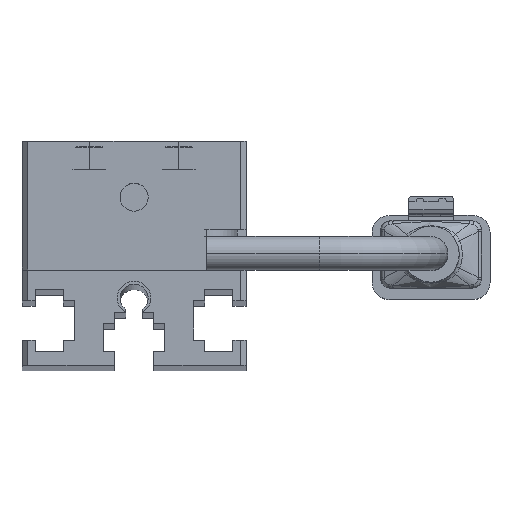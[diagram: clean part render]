
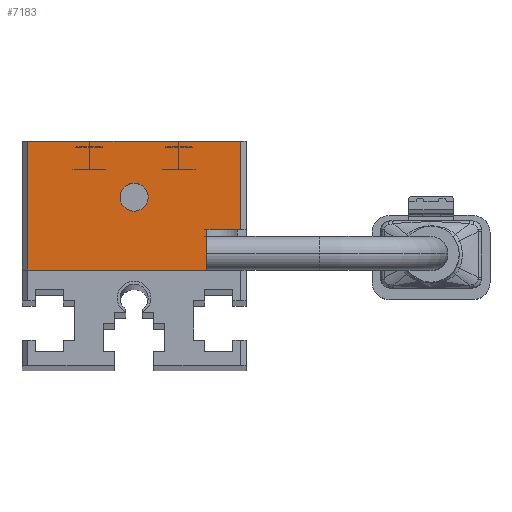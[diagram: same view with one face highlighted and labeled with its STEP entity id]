
A CAD part, top view. The second image highlights one B-rep face of the part: STEP entity #7183.
In plain terms, the highlighted planar face has unit normal (0, 0, 1) as drawn and (0, 0, -1) by its records, which use the part's own axes.
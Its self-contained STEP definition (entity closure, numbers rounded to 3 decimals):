
#145 = CARTESIAN_POINT ( 'NONE',  ( -10., 11.5, 0. ) ) ;
#191 = EDGE_CURVE ( 'NONE', #7475, #6635, #8576, .T. ) ;
#224 = LINE ( 'NONE', #13162, #6159 ) ;
#571 = DIRECTION ( 'NONE',  ( -1., 0., 0. ) ) ;
#580 = ORIENTED_EDGE ( 'NONE', *, *, #12762, .T. ) ;
#758 = ORIENTED_EDGE ( 'NONE', *, *, #4007, .F. ) ;
#853 = CARTESIAN_POINT ( 'NONE',  ( -1.25, 6.5, 0. ) ) ;
#907 = VECTOR ( 'NONE', #12783, 1000. ) ;
#1071 = CARTESIAN_POINT ( 'NONE',  ( 9.5, 11.5, 0. ) ) ;
#1163 = CARTESIAN_POINT ( 'NONE',  ( -9.5, 3.6, 0. ) ) ;
#1245 = VERTEX_POINT ( 'NONE', #11125 ) ;
#1472 = DIRECTION ( 'NONE',  ( 0., 1., 0. ) ) ;
#1576 = VECTOR ( 'NONE', #1472, 1000. ) ;
#1642 = DIRECTION ( 'NONE',  ( 0., 0., -1. ) ) ;
#1709 = FACE_BOUND ( 'NONE', #2991, .T. ) ;
#2228 = DIRECTION ( 'NONE',  ( 1., 0., 0. ) ) ;
#2321 = EDGE_CURVE ( 'NONE', #6824, #6278, #4272, .T. ) ;
#2353 = CARTESIAN_POINT ( 'NONE',  ( -9.5, 3.6, 0. ) ) ;
#2420 = EDGE_CURVE ( 'NONE', #8124, #1245, #9877, .T. ) ;
#2787 = DIRECTION ( 'NONE',  ( 0., 0., -1. ) ) ;
#2991 = EDGE_LOOP ( 'NONE', ( #10894, #6882 ) ) ;
#2992 = CIRCLE ( 'NONE', #11107, 1.25 ) ;
#3545 = DIRECTION ( 'NONE',  ( -1., 0., 0. ) ) ;
#3663 = EDGE_CURVE ( 'NONE', #1245, #6635, #224, .T. ) ;
#4007 = EDGE_CURVE ( 'NONE', #7475, #10305, #8254, .T. ) ;
#4272 = CIRCLE ( 'NONE', #9616, 1.25 ) ;
#4572 = LINE ( 'NONE', #5587, #1576 ) ;
#4774 = AXIS2_PLACEMENT_3D ( 'NONE', #5755, #1642, #3545 ) ;
#4800 = CARTESIAN_POINT ( 'NONE',  ( -6.5, 3., 0. ) ) ;
#4817 = PLANE ( 'NONE',  #4774 ) ;
#4940 = CARTESIAN_POINT ( 'NONE',  ( 0., 6.5, 0. ) ) ;
#5063 = CARTESIAN_POINT ( 'NONE',  ( 1.25, 6.5, 0. ) ) ;
#5587 = CARTESIAN_POINT ( 'NONE',  ( -9.5, 11.5, 0. ) ) ;
#5755 = CARTESIAN_POINT ( 'NONE',  ( -10., 11.5, 0. ) ) ;
#6130 = CARTESIAN_POINT ( 'NONE',  ( -9.5, 11.5, 0. ) ) ;
#6159 = VECTOR ( 'NONE', #2228, 1000. ) ;
#6278 = VERTEX_POINT ( 'NONE', #5063 ) ;
#6336 = ORIENTED_EDGE ( 'NONE', *, *, #3663, .F. ) ;
#6635 = VERTEX_POINT ( 'NONE', #11124 ) ;
#6824 = VERTEX_POINT ( 'NONE', #853 ) ;
#6882 = ORIENTED_EDGE ( 'NONE', *, *, #8828, .F. ) ;
#7183 = ADVANCED_FACE ( 'NONE', ( #8759, #1709 ), #4817, .T. ) ;
#7299 = ORIENTED_EDGE ( 'NONE', *, *, #191, .T. ) ;
#7475 = VERTEX_POINT ( 'NONE', #1071 ) ;
#8124 = VERTEX_POINT ( 'NONE', #13029 ) ;
#8171 = EDGE_CURVE ( 'NONE', #9390, #8124, #9486, .T. ) ;
#8254 = LINE ( 'NONE', #145, #9352 ) ;
#8510 = CARTESIAN_POINT ( 'NONE',  ( 9.5, 0., 0. ) ) ;
#8576 = LINE ( 'NONE', #8510, #907 ) ;
#8759 = FACE_OUTER_BOUND ( 'NONE', #10937, .T. ) ;
#8828 = EDGE_CURVE ( 'NONE', #6278, #6824, #2992, .T. ) ;
#9019 = DIRECTION ( 'NONE',  ( 0., 0., -1. ) ) ;
#9352 = VECTOR ( 'NONE', #12333, 1000. ) ;
#9390 = VERTEX_POINT ( 'NONE', #2353 ) ;
#9486 = LINE ( 'NONE', #1163, #10061 ) ;
#9616 = AXIS2_PLACEMENT_3D ( 'NONE', #12879, #2787, #571 ) ;
#9877 = LINE ( 'NONE', #4800, #11315 ) ;
#10061 = VECTOR ( 'NONE', #11358, 1000. ) ;
#10305 = VERTEX_POINT ( 'NONE', #6130 ) ;
#10894 = ORIENTED_EDGE ( 'NONE', *, *, #2321, .F. ) ;
#10937 = EDGE_LOOP ( 'NONE', ( #11061, #11535, #580, #758, #7299, #6336 ) ) ;
#11061 = ORIENTED_EDGE ( 'NONE', *, *, #2420, .F. ) ;
#11107 = AXIS2_PLACEMENT_3D ( 'NONE', #4940, #9019, #12083 ) ;
#11124 = CARTESIAN_POINT ( 'NONE',  ( 9.5, 0., 0. ) ) ;
#11125 = CARTESIAN_POINT ( 'NONE',  ( -6.5, 0., 0. ) ) ;
#11315 = VECTOR ( 'NONE', #12685, 1000. ) ;
#11358 = DIRECTION ( 'NONE',  ( 1., 0., 0. ) ) ;
#11535 = ORIENTED_EDGE ( 'NONE', *, *, #8171, .F. ) ;
#12083 = DIRECTION ( 'NONE',  ( -1., 0., 0. ) ) ;
#12333 = DIRECTION ( 'NONE',  ( -1., 0., 0. ) ) ;
#12685 = DIRECTION ( 'NONE',  ( 0., -1., 0. ) ) ;
#12762 = EDGE_CURVE ( 'NONE', #9390, #10305, #4572, .T. ) ;
#12783 = DIRECTION ( 'NONE',  ( 0., -1., 0. ) ) ;
#12879 = CARTESIAN_POINT ( 'NONE',  ( 0., 6.5, 0. ) ) ;
#13029 = CARTESIAN_POINT ( 'NONE',  ( -6.5, 3.6, 0. ) ) ;
#13162 = CARTESIAN_POINT ( 'NONE',  ( -10., 0., 0. ) ) ;
